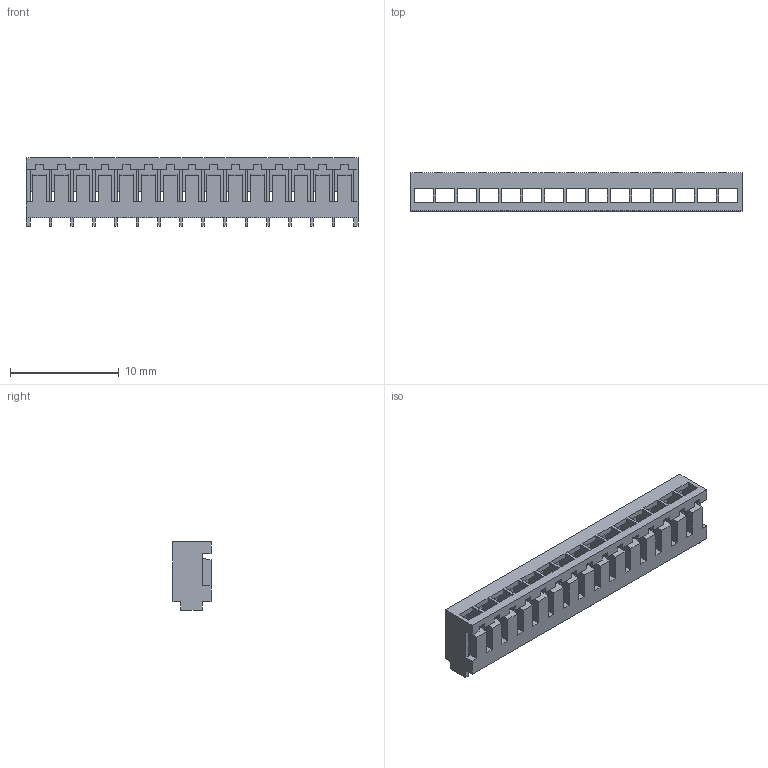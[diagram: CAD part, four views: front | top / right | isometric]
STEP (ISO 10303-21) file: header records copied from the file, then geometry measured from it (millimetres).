
FILE_DESCRIPTION (( 'STEP AP214' ), '1' );
FILE_NAME ('HC-JC20-15Y-05 (2.00 等齬 謂釱-HCTL).STEP', '2024-12-31T02:07:44', ( '' ), ( '' ), 'SwSTEP 2.0', 'SolidWorks 2022', '' );
FILE_SCHEMA (( 'AUTOMOTIVE_DESIGN' ));
Length unit declared in the file: millimetre
Products named in the file (1): HC-JC20-15Y-05 (2.00 等齬 謂釱-HCTL)
Bounding box: 30.5 x 3.5 x 6.3 mm (x, y, z)
Volume: 244 mm3; surface area: 1274.2 mm2
Topology: 1 solids, 1 shells, 404 faces, 1236 edges, 789 vertices
Faces by surface type: plane 404
Entity records: 13534 total; most frequent: ORIENTED_EDGE 2472, CARTESIAN_POINT 2430, DIRECTION 2046, LINE 1236, EDGE_CURVE 1236, VECTOR 1236, VERTEX_POINT 789, EDGE_LOOP 419
